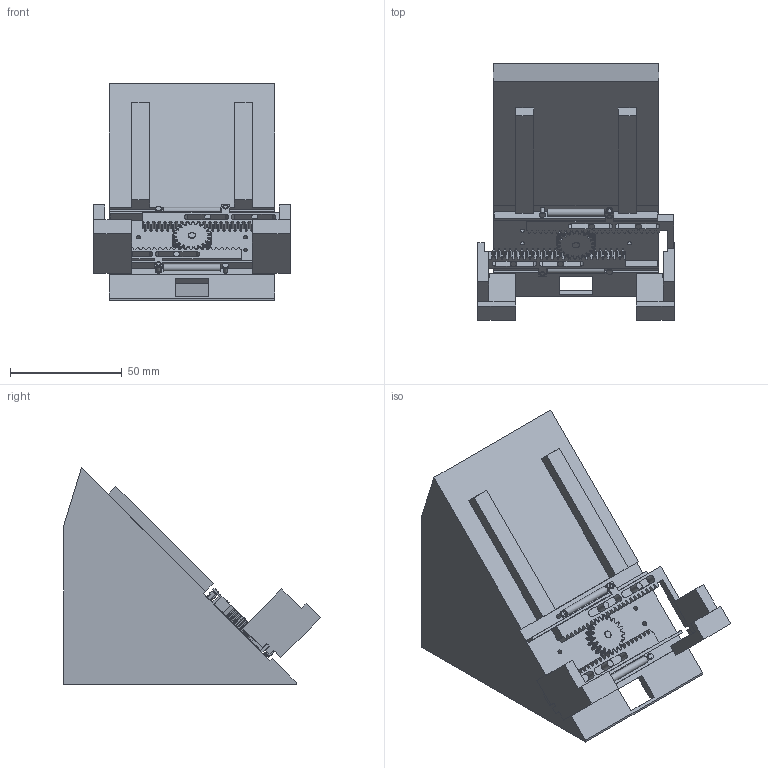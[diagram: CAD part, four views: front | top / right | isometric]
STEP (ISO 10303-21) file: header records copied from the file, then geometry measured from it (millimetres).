
FILE_DESCRIPTION(('Open CASCADE Model'),'2;1');
FILE_NAME('Open CASCADE Shape Model','2026-11-24T20:33:51',('Author'),( 'Open CASCADE'),'Open CASCADE STEP processor 7.8','Open CASCADE 7.8' ,'Unknown');
FILE_SCHEMA(('AUTOMOTIVE_DESIGN { 1 0 10303 214 1 1 1 1 }'));
Length unit declared in the file: millimetre
Products named in the file (16): R03_Clamp_Cover_Off; 04_Wedge_45deg; 05_Jaw_Left; 06_Jaw_Right; 11_Clamp_Pinion; REF_Stop_Right_1; REF_Stop_Left_1; REF_Stop_Right_2; REF_Stop_Left_2; REF_Pinion_Shaft; REF_Spring_Right; REF_Spring_Left; REF_Fixed_Eye_Right; REF_Fixed_Eye_Left; REF_Moving_Eye_Right; REF_Moving_Eye_Left
Assembly tree (15 placements, depth 2):
  R03_Clamp_Cover_Off
    04_Wedge_45deg
    05_Jaw_Left
    06_Jaw_Right
    11_Clamp_Pinion
    REF_Stop_Right_1
    REF_Stop_Left_1
    REF_Stop_Right_2
    REF_Stop_Left_2
    REF_Pinion_Shaft
    REF_Spring_Right
    REF_Spring_Left
    REF_Fixed_Eye_Right
    REF_Fixed_Eye_Left
    REF_Moving_Eye_Right
    REF_Moving_Eye_Left
Bounding box: 88 x 114.82 x 96.95 mm (x, y, z)
Volume: 109236.7 mm3; surface area: 69325.1 mm2
Topology: 15 solids, 15 shells, 874 faces, 2443 edges, 1628 vertices
Faces by surface type: plane 820, cylinder 54
Full cylindrical faces by diameter (mm): 1.6 x4, 1.7 x4, 1.9 x4, 2.24 x4, 2.3 x4, 2.34 x1, 2.4 x3, 2.7 x8, 3 x4, 3.18 x1, 3.2 x2, 3.26 x1, 8.3 x2
Entity records: 59791 total; most frequent: CARTESIAN_POINT 10039, DIRECTION 9163, LINE 6995, VECTOR 6995, ORIENTED_EDGE 4886, PCURVE 4886, DEFINITIONAL_REPRESENTATION 4886, EDGE_CURVE 2443
